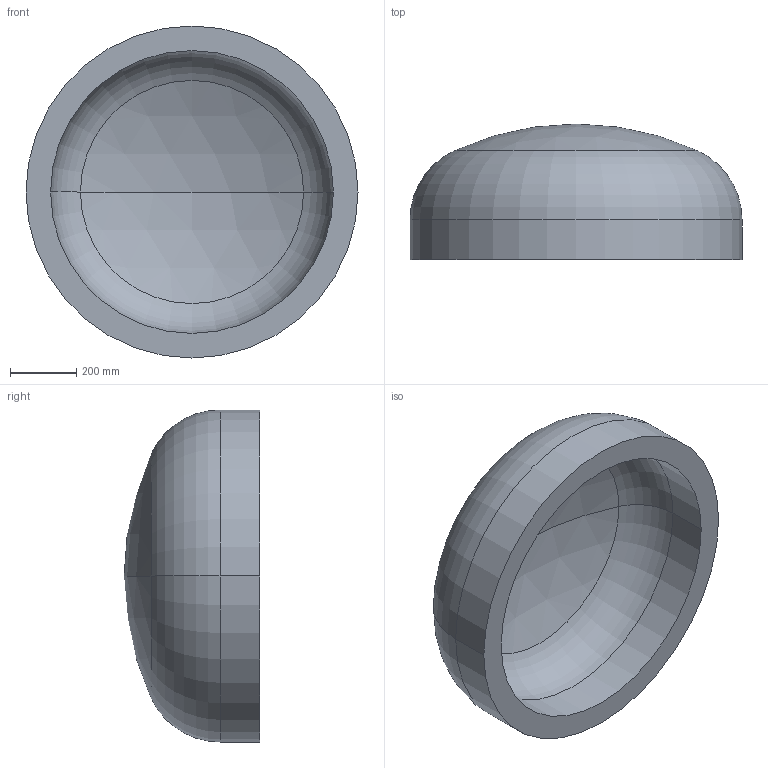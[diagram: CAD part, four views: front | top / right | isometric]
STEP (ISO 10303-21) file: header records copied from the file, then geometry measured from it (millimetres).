
FILE_DESCRIPTION (( 'STEP AP203' ), '1' );
FILE_NAME ('DIN 28013 Korbbogenform_-_Boden DIN 28013 - 1000 x 120 - I - s=74.step', '2016-07-01T08:53:40', ( '' ), ( '' ), 'SwSTEP 2.0', 'SolidWorks 2013', '' );
FILE_SCHEMA (( 'CONFIG_CONTROL_DESIGN' ));
Length unit declared in the file: millimetre
Products named in the file (1): DIN 28013 Korbbogenform_-_Boden DIN 28013 - 1000 x 120 - I - s=74
Bounding box: 1000 x 408.69 x 1000 mm (x, y, z)
Volume: 99256138.7 mm3; surface area: 2909341.3 mm2
Topology: 1 solids, 1 shells, 13 faces, 24 edges, 14 vertices
Faces by surface type: torus 4, cylinder 4, sphere 4, plane 1
Entity records: 407 total; most frequent: DIRECTION 72, CARTESIAN_POINT 52, ORIENTED_EDGE 48, AXIS2_PLACEMENT_3D 34, EDGE_CURVE 24, CIRCLE 20, VERTEX_POINT 14, EDGE_LOOP 14
